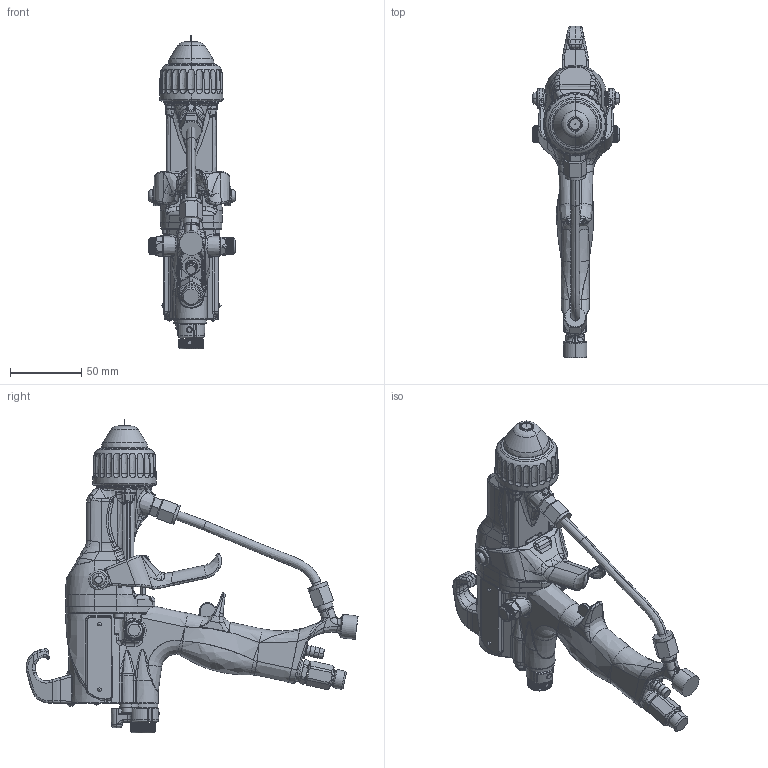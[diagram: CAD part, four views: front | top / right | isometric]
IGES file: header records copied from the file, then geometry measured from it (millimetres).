
Start section:  PTC IGES file: l40t31-en-e.igs
Global section: file name: l40t31-en-e.igs; native system: Creo Parametric by PTC Inc.; preprocessor: 2019030; author: qusrh3; organization: Unknown; date: 20200518.163514; units: inch
Bounding box: 60.96 x 233.22 x 220.38 mm (x, y, z)
Surface area: 84284.5 mm2 (no closed solid volume)
Topology: 0 solids, 0 shells, 2527 faces, 12643 edges, 12636 vertices
Faces by surface type: bspline 1337, revolution 1184, extrusion 6
